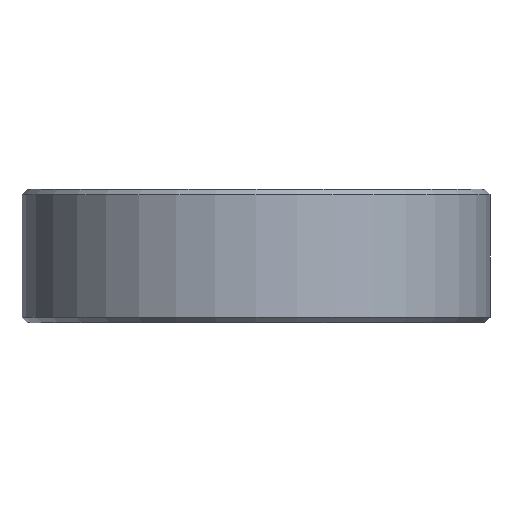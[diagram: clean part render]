
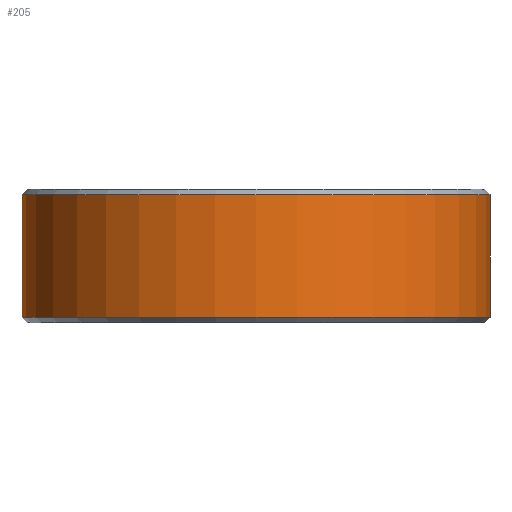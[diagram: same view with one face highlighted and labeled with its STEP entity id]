
A CAD part, front view. The second image highlights one B-rep face of the part: STEP entity #205.
In plain terms, the highlighted cylindrical face has radius 21 mm (diameter 42 mm), a partial arc.
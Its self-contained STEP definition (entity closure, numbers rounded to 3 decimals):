
#5 = CARTESIAN_POINT ( 'NONE',  ( -21., 0., -5.5 ) ) ;
#10 = AXIS2_PLACEMENT_3D ( 'NONE', #250, #221, #31 ) ;
#23 = VECTOR ( 'NONE', #191, 1000. ) ;
#31 = DIRECTION ( 'NONE',  ( 1., 0., 0. ) ) ;
#59 = VERTEX_POINT ( 'NONE', #5 ) ;
#91 = DIRECTION ( 'NONE',  ( 0., 0., -1. ) ) ;
#95 = DIRECTION ( 'NONE',  ( 1., 0., 0. ) ) ;
#143 = EDGE_CURVE ( 'NONE', #203, #241, #380, .T. ) ;
#153 = DIRECTION ( 'NONE',  ( 0., 0., -1. ) ) ;
#154 = EDGE_CURVE ( 'NONE', #59, #241, #262, .T. ) ;
#163 = ORIENTED_EDGE ( 'NONE', *, *, #230, .T. ) ;
#177 = ORIENTED_EDGE ( 'NONE', *, *, #143, .F. ) ;
#191 = DIRECTION ( 'NONE',  ( 0., 0., -1. ) ) ;
#197 = CARTESIAN_POINT ( 'NONE',  ( 0., 0., 5.5 ) ) ;
#199 = CARTESIAN_POINT ( 'NONE',  ( -21., 0., 5.5 ) ) ;
#203 = VERTEX_POINT ( 'NONE', #350 ) ;
#205 = ADVANCED_FACE ( 'NONE', ( #405 ), #345, .T. ) ;
#217 = CARTESIAN_POINT ( 'NONE',  ( 0., 0., 6. ) ) ;
#221 = DIRECTION ( 'NONE',  ( 0., 0., 1. ) ) ;
#230 = EDGE_CURVE ( 'NONE', #203, #398, #245, .T. ) ;
#241 = VERTEX_POINT ( 'NONE', #413 ) ;
#245 = CIRCLE ( 'NONE', #307, 21. ) ;
#250 = CARTESIAN_POINT ( 'NONE',  ( 0., 0., -5.5 ) ) ;
#255 = CARTESIAN_POINT ( 'NONE',  ( -21., 0., 6. ) ) ;
#262 = CIRCLE ( 'NONE', #10, 21. ) ;
#273 = EDGE_CURVE ( 'NONE', #398, #59, #404, .T. ) ;
#274 = ORIENTED_EDGE ( 'NONE', *, *, #273, .T. ) ;
#283 = DIRECTION ( 'NONE',  ( 0., 0., -1. ) ) ;
#297 = VECTOR ( 'NONE', #91, 1000. ) ;
#307 = AXIS2_PLACEMENT_3D ( 'NONE', #197, #283, #95 ) ;
#310 = CARTESIAN_POINT ( 'NONE',  ( 21., 0., 6. ) ) ;
#311 = ORIENTED_EDGE ( 'NONE', *, *, #154, .T. ) ;
#345 = CYLINDRICAL_SURFACE ( 'NONE', #403, 21. ) ;
#350 = CARTESIAN_POINT ( 'NONE',  ( 21., 0., 5.5 ) ) ;
#372 = EDGE_LOOP ( 'NONE', ( #177, #163, #274, #311 ) ) ;
#380 = LINE ( 'NONE', #310, #297 ) ;
#398 = VERTEX_POINT ( 'NONE', #199 ) ;
#402 = DIRECTION ( 'NONE',  ( -1., 0., 0. ) ) ;
#403 = AXIS2_PLACEMENT_3D ( 'NONE', #217, #153, #402 ) ;
#404 = LINE ( 'NONE', #255, #23 ) ;
#405 = FACE_OUTER_BOUND ( 'NONE', #372, .T. ) ;
#413 = CARTESIAN_POINT ( 'NONE',  ( 21., 0., -5.5 ) ) ;
